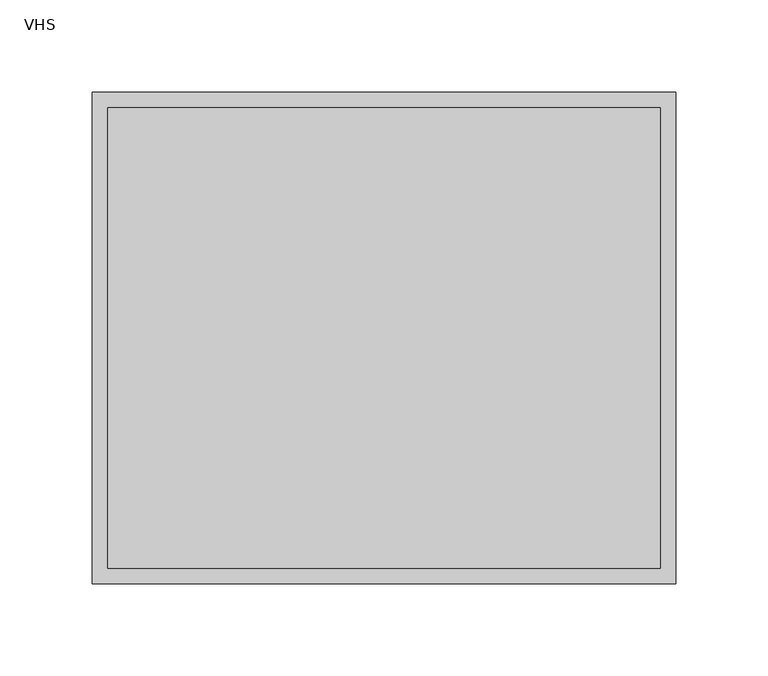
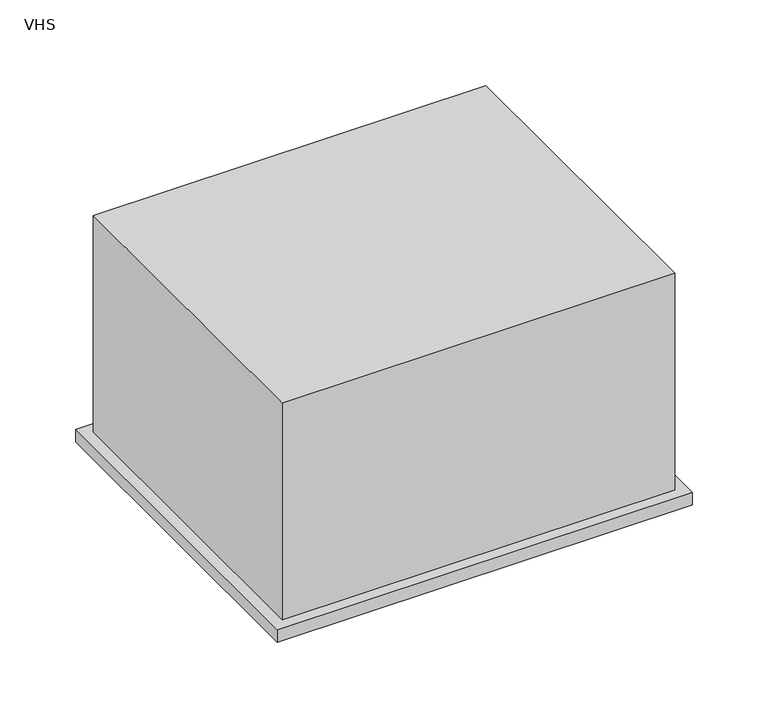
"""IFC4 building model written with IfcOpenShell, lengths in millimetres: air terminal geometry, 031_ユニバーサル形吹出口 : VHS."""

import ifcopenshell
import ifcopenshell.guid

model = None  # the IFC model being written
_history = None  # IfcOwnerHistory: only IFC2X3 demands one
_inside = {}  # id of a spatial element -> (the spatial element, [elements in it])
_under = {}  # id of a project, library or spatial element -> (it, [spatial elements below it])
_declared = {}  # id of a project -> (the project, [libraries it declares])
_typed = {}  # id of a type object -> (the type object, [elements of that type])
_made_of = {}  # id of a material, layer set ... -> (it, [elements and type objects made of it])


def new_model(schema):
    """Start an empty IFC model of exactly this schema.

    Asked for "IFC4X3", IfcOpenShell would pick the latest addendum, in which some entities
    have other attributes; the version numbers below select the first issue.
    IFC2X3 requires an IfcOwnerHistory on every rooted entity: one is made here for all.
    """
    global model, _history
    if schema == "IFC4X3":
        model = ifcopenshell.file(schema_version=(4, 3, 0, 0))
    else:
        model = ifcopenshell.file(schema=schema)
    _inside.clear()
    _under.clear()
    _declared.clear()
    _typed.clear()
    _made_of.clear()
    _history = None
    if model.schema == "IFC2X3":
        org = make("IfcOrganization", Name="unknown")
        user = make(
            "IfcPersonAndOrganization",
            ThePerson=make("IfcPerson", FamilyName="unknown"),
            TheOrganization=org,
        )
        app = make(
            "IfcApplication",
            ApplicationDeveloper=org,
            Version="unknown",
            ApplicationFullName="unknown",
            ApplicationIdentifier="unknown",
        )
        _history = make(
            "IfcOwnerHistory",
            OwningUser=user,
            OwningApplication=app,
            ChangeAction="ADDED",
            CreationDate=0,
        )
    return model


def make(cls, **values):
    """One entity of the class cls with the attributes given. An attribute that is None is left unset."""
    return model.create_entity(
        cls, **{name: value for name, value in values.items() if value is not None}
    )


def rooted(cls, **values):
    """An entity with a GlobalId (a new one), such as an element, a storey or a relation."""
    return make(cls, GlobalId=ifcopenshell.guid.new(), OwnerHistory=_history, **values)


def si_unit(unit_type, name, prefix=None):
    """IfcSIUnit, for example si_unit("LENGTHUNIT", "METRE", prefix="MILLI")."""
    return make("IfcSIUnit", UnitType=unit_type, Prefix=prefix, Name=name)


def assignment(units):
    """IfcUnitAssignment: the units of a project."""
    return None if units is None else make("IfcUnitAssignment", Units=units)


def point(xyz):
    """IfcCartesianPoint."""
    return None if xyz is None else make("IfcCartesianPoint", Coordinates=xyz)


def direction(xyz):
    """IfcDirection."""
    return None if xyz is None else make("IfcDirection", DirectionRatios=xyz)


def frame(location, z_axis=None, x_axis=None):
    """IfcAxis2Placement3D, a coordinate frame: its origin and axes. An axis left out is left unset."""
    return make(
        "IfcAxis2Placement3D",
        Location=point(location),
        Axis=direction(z_axis),
        RefDirection=direction(x_axis),
    )


def origin():
    """The frame at (0, 0, 0) with its axes left unset."""
    return frame((0.0, 0.0, 0.0))


def origin_with_axes():
    """The frame at (0, 0, 0) with the z axis (0, 0, 1) and the x axis (1, 0, 0) written out."""
    return frame((0.0, 0.0, 0.0), z_axis=(0.0, 0.0, 1.0), x_axis=(1.0, 0.0, 0.0))


def place(relative_to, where):
    """IfcLocalPlacement: puts the frame where relative to a parent placement (None: the world)."""
    return make(
        "IfcLocalPlacement", PlacementRelTo=relative_to, RelativePlacement=where
    )


def context(
    kind, dimensions, precision=None, world=None, true_north=None, identifier=None
):
    """IfcGeometricRepresentationContext, for example the 3D "Model" context."""
    return make(
        "IfcGeometricRepresentationContext",
        ContextIdentifier=identifier,
        ContextType=kind,
        CoordinateSpaceDimension=dimensions,
        Precision=precision,
        WorldCoordinateSystem=world,
        TrueNorth=true_north,
    )


def project(units=None, contexts=None):
    """IfcProject with its units and contexts."""
    return rooted(
        "IfcProject",
        Name="project",
        RepresentationContexts=contexts,
        UnitsInContext=assignment(units),
    )


def spatial(cls, under=None, at=None, **own):
    """A site, building, storey or space (cls), placed at a placement, below another one or the project."""
    s = rooted(cls, ObjectPlacement=at, **own)
    if under is not None:
        _under.setdefault(under.id(), (under, []))[1].append(s)
    return s


def polyline(points):
    """IfcPolyline through the points."""
    return make("IfcPolyline", Points=[point(p) for p in points])


def outline(outer, holes=None, kind="AREA"):
    """IfcArbitraryClosedProfileDef: a profile drawn as a closed curve; with holes, ...WithVoids."""
    if holes is None:
        return make("IfcArbitraryClosedProfileDef", ProfileType=kind, OuterCurve=outer)
    return make(
        "IfcArbitraryProfileDefWithVoids",
        ProfileType=kind,
        OuterCurve=outer,
        InnerCurves=holes,
    )


def extrude(swept, where, along, depth):
    """IfcExtrudedAreaSolid: the profile swept, set in the frame where, extruded along a direction by depth."""
    return make(
        "IfcExtrudedAreaSolid",
        SweptArea=swept,
        Position=where,
        ExtrudedDirection=direction(along),
        Depth=depth,
    )


def shape(context_of_items, identifier, shape_type, items):
    """IfcShapeRepresentation: the items that make up one representation, for example the "Body"."""
    return make(
        "IfcShapeRepresentation",
        ContextOfItems=context_of_items,
        RepresentationIdentifier=identifier,
        RepresentationType=shape_type,
        Items=items,
    )


def source(mapping_origin, context_of_items, identifier, shape_type, items):
    """IfcRepresentationMap: a shape defined once, which mapped items show again and again."""
    return make(
        "IfcRepresentationMap",
        MappingOrigin=mapping_origin,
        MappedRepresentation=shape(context_of_items, identifier, shape_type, items),
    )


def transform(
    local_origin,
    x_axis=None,
    y_axis=None,
    z_axis=None,
    scale=None,
    scale2=None,
    scale3=None,
    uniform=True,
):
    """IfcCartesianTransformationOperator3D, or its non-uniform kind. x_axis, y_axis, z_axis: its Axis1, 2, 3."""
    if uniform:
        return make(
            "IfcCartesianTransformationOperator3D",
            Axis1=direction(x_axis),
            Axis2=direction(y_axis),
            LocalOrigin=point(local_origin),
            Scale=scale,
            Axis3=direction(z_axis),
        )
    return make(
        "IfcCartesianTransformationOperator3DnonUniform",
        Axis1=direction(x_axis),
        Axis2=direction(y_axis),
        LocalOrigin=point(local_origin),
        Scale=scale,
        Axis3=direction(z_axis),
        Scale2=scale2,
        Scale3=scale3,
    )


def mapped(mapping_source, mapping_target):
    """IfcMappedItem: shows the shape of a source again, moved by a transform."""
    return make(
        "IfcMappedItem", MappingSource=mapping_source, MappingTarget=mapping_target
    )


def made_of(thing, what):
    """Note that an element or type object is made of a material, layer set ...; save() writes the relation."""
    if what is not None:
        _made_of.setdefault(what.id(), (what, []))[1].append(thing)
    return thing


def element(
    cls,
    number,
    at=None,
    inside=None,
    cuts=None,
    type_object=None,
    material=None,
    context=None,
    identifier="Body",
    shape_type=None,
    held_by="IfcProductDefinitionShape",
    body=None,
    shapes=None,
    **own,
):
    """One element of the class cls, such as IfcWall. Its Tag is "e" and its number.

    at: its placement. inside: the storey or other place that contains it. cuts: it is an
    opening in that element (IfcRelVoidsElement). A single representation is given by context,
    identifier, shape_type and body (its items); several are given by shapes. held_by: the class
    of the entity that holds the representations. save() writes the other relations.
    """
    e = rooted(cls, Tag="e%d" % number, ObjectPlacement=at, **own)
    if body is not None:
        shapes = [shape(context, identifier, shape_type, body)]
    if shapes is not None:
        e.Representation = make(held_by, Representations=shapes)
    if inside is not None:
        _inside.setdefault(inside.id(), (inside, []))[1].append(e)
    if cuts is not None:
        rooted(
            "IfcRelVoidsElement", RelatingBuildingElement=cuts, RelatedOpeningElement=e
        )
    if type_object is not None:
        _typed.setdefault(type_object.id(), (type_object, []))[1].append(e)
    return made_of(e, material)


def aggregate(whole, parts):
    """IfcRelAggregates: a whole, such as a stair, and the parts it consists of."""
    return rooted("IfcRelAggregates", RelatingObject=whole, RelatedObjects=parts)


def save(model, path):
    """Write the relations noted so far, then the file.

    IfcRelAggregates (storeys below a building ...), IfcRelContainedInSpatialStructure (elements
    in a storey), IfcRelDefinesByType, IfcRelAssociatesMaterial and IfcRelDeclares: one each for
    every whole, place, type object, material and project.
    """
    for whole, parts in _under.values():
        aggregate(whole, parts)
    for where, things in _inside.values():
        rooted(
            "IfcRelContainedInSpatialStructure",
            RelatedElements=things,
            RelatingStructure=where,
        )
    for kind, things in _typed.values():
        rooted("IfcRelDefinesByType", RelatedObjects=things, RelatingType=kind)
    for what, things in _made_of.values():
        rooted("IfcRelAssociatesMaterial", RelatedObjects=things, RelatingMaterial=what)
    for by, libraries in _declared.values():
        rooted("IfcRelDeclares", RelatingContext=by, RelatedDefinitions=libraries)
    model.write(path)


def vhs_8d5e1724(model_context):
    return source(origin(), model_context, "Body", "SweptSolid", [
        extrude(outline(polyline([(150.0, 125.0), (150.0, -125.0), (-150.0, -125.0), (-150.0, 125.0), (150.0, 125.0)])), origin_with_axes(), (0.0, 0.0, 1.0), 175.0),
        extrude(outline(polyline([(158.5, -133.5), (-158.5, -133.5), (-158.5, 133.5), (158.5, 133.5), (158.5, -133.5)]), holes=[polyline([(150.0, -125.0), (150.0, 125.0), (-150.0, 125.0), (-150.0, -125.0), (150.0, -125.0)])]), frame((0.0, 0.0, -10.0), z_axis=(0.0, 0.0, 1.0), x_axis=(1.0, 0.0, 0.0)), (0.0, 0.0, 1.0), 10.0),
    ])


if __name__ == "__main__":
    model = new_model("IFC4")
    model_context = context("Model", 3, world=origin())
    ifc_project = project(units=[si_unit("LENGTHUNIT", "METRE", prefix="MILLI")], contexts=[model_context])
    site = spatial("IfcSite", under=ifc_project)
    building = spatial("IfcBuilding", under=site)
    placement = place(None, origin())
    vhs_shape = vhs_8d5e1724(model_context)
    element("IfcAirTerminal", 1, ObjectType="031_ユニバーサル形吹出口 : VHS", at=placement, inside=building, context=model_context, shape_type="MappedRepresentation", body=[
        mapped(vhs_shape, transform((0.0, 0.0, 0.0), x_axis=(1.0, 0.0, 0.0), y_axis=(0.0, 1.0, 0.0), z_axis=(0.0, 0.0, 1.0))),
    ])
    save(model, "model.ifc")
